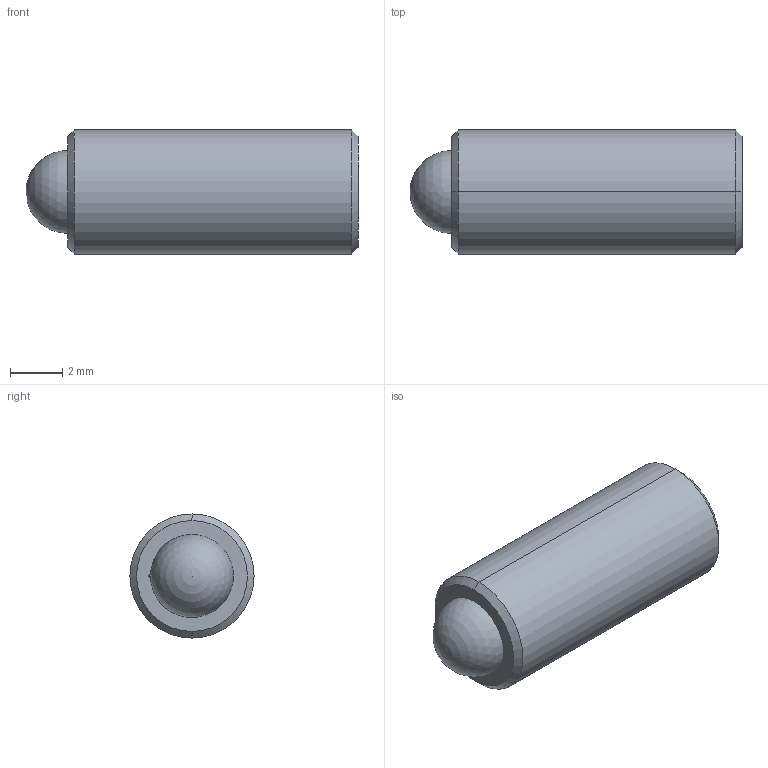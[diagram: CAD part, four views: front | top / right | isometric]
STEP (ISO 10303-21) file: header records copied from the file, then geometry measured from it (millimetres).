
FILE_DESCRIPTION (( 'STEP AP214' ), '1' );
FILE_NAME ('TS187-100-500-HV.STEP', '2013-05-09T12:26:33', ( 'workpc' ), ( 'Microsoft' ), 'SwSTEP 2.0', 'SolidWorks 2013', '' );
FILE_SCHEMA (( 'AUTOMOTIVE_DESIGN' ));
Length unit declared in the file: inch
Products named in the file (1): TS187-100-500-HV
Bounding box: 12.7 x 4.75 x 4.75 mm (x, y, z)
Volume: 192.4 mm3; surface area: 260 mm2
Topology: 2 solids, 2 shells, 24 faces, 57 edges, 37 vertices
Faces by surface type: plane 10, cylinder 8, cone 4, sphere 2
Entity records: 739 total; most frequent: DIRECTION 124, CARTESIAN_POINT 111, ORIENTED_EDGE 104, EDGE_CURVE 52, AXIS2_PLACEMENT_3D 47, VERTEX_POINT 34, LINE 30, VECTOR 30
